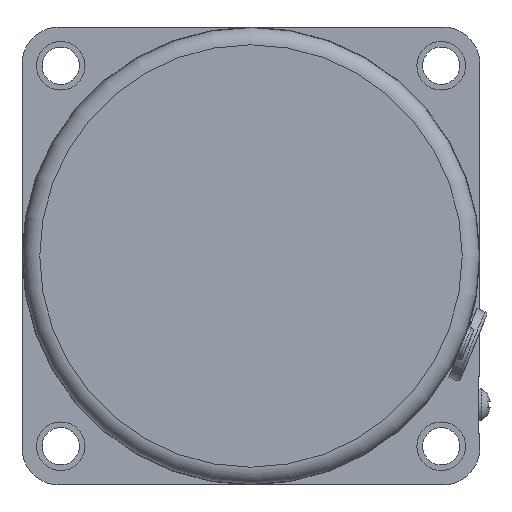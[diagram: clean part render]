
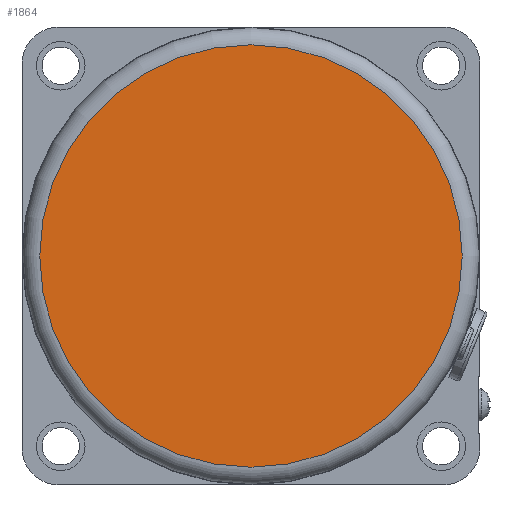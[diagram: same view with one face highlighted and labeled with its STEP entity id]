
A CAD part, left-side view. The second image highlights one B-rep face of the part: STEP entity #1864.
In plain terms, the highlighted planar face has unit normal (-1, 0, 0).
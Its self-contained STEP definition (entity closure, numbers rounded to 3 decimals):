
#405=FACE_OUTER_BOUND('',#537,.T.);
#537=EDGE_LOOP('',(#1216));
#692=CIRCLE('',#1998,36.9);
#786=VERTEX_POINT('',#2801);
#961=EDGE_CURVE('',#786,#786,#692,.T.);
#1216=ORIENTED_EDGE('',*,*,#961,.F.);
#1668=PLANE('',#2000);
#1864=ADVANCED_FACE('',(#405),#1668,.T.);
#1998=AXIS2_PLACEMENT_3D('',#2802,#2238,#2239);
#2000=AXIS2_PLACEMENT_3D('',#2804,#2242,#2243);
#2238=DIRECTION('center_axis',(1.,0.,0.));
#2239=DIRECTION('ref_axis',(0.,0.,1.));
#2242=DIRECTION('center_axis',(-1.,0.,0.));
#2243=DIRECTION('ref_axis',(0.,0.,1.));
#2801=CARTESIAN_POINT('',(-38.5,0.,-36.9));
#2802=CARTESIAN_POINT('Origin',(-38.5,0.,
0.));
#2804=CARTESIAN_POINT('Origin',(-38.5,0.,
0.));
